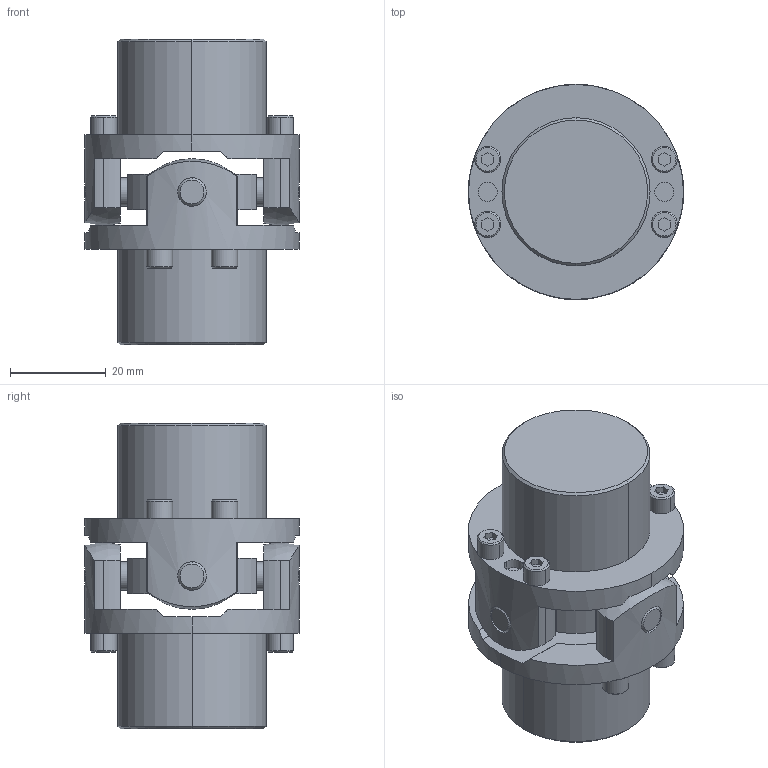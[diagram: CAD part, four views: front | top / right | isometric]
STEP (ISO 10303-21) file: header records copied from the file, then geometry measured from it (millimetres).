
FILE_DESCRIPTION((''),'2;1');
FILE_NAME('UCR-45.stp','2013-05-13T09:39:30',(''),(''),'AutoCAD STEP 2000i','AutoCAD 2000i',', , ');
FILE_SCHEMA(('CONFIG_CONTROL_DESIGN'));
Length unit declared in the file: millimetre
Products named in the file (7): UCR-45; 忣兜1; UCR-4502; UCNF-4502; UCN45-B010-1; UCN45-B010; UCN45-SEN
Assembly tree (6 placements, depth 2):
  UCR-45
    忣兜1
    UCR-4502
    UCNF-4502
    UCN45-B010-1
    UCN45-B010
    UCN45-SEN
Bounding box: 45 x 45 x 64 mm (x, y, z)
Volume: 53320.9 mm3; surface area: 16663.9 mm2
Topology: 1 solids, 1 shells, 210 faces, 514 edges, 336 vertices
Faces by surface type: plane 104, cylinder 74, cone 28, sphere 4
Entity records: 6765 total; most frequent: CARTESIAN_POINT 1431, DIRECTION 1152, ORIENTED_EDGE 1028, EDGE_CURVE 514, AXIS2_PLACEMENT_3D 433, VERTEX_POINT 336, VECTOR 286, LINE 286
